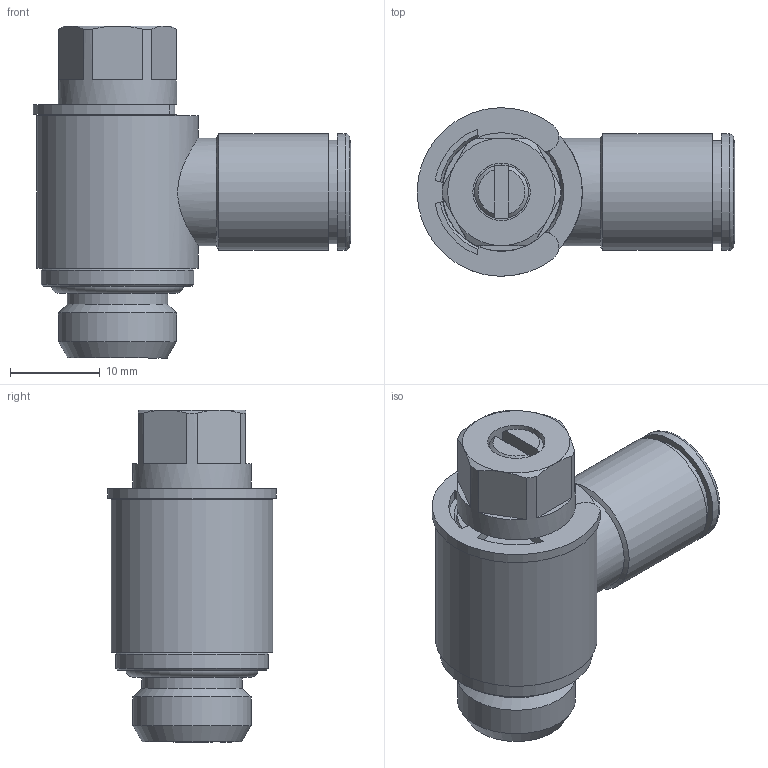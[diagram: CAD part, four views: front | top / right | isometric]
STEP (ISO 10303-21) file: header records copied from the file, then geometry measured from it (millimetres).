
FILE_DESCRIPTION(/* description */ (''),/* implementation_level */ '2;1');
FILE_NAME(/* name */ 'B204608_IPSO_046_8_14_04.02.2016',/* time_stamp */ '2016-02-04T15:12:49+01:00',/* author */ (''),/* organization */ (''),/* preprocessor_version */ 'ST-DEVELOPER v14',/* originating_system */ 'HiCAD 2013 1802.4 Build 509',/* authorisation */ '');
FILE_SCHEMA (('AUTOMOTIVE_DESIGN { 1 0 10303 214 1 1 1 1 }'));
Length unit declared in the file: millimetre
Products named in the file (8): Root; 800053; OR 11.11X1.78; DR8_NEU; 304004-3; R2012085-i1; 304064_Körper (C53C020X); 304002_Spindel
Assembly tree (7 placements, depth 2):
  Root
    800053
    OR 11.11X1.78
    DR8_NEU
    304004-3
    R2012085-i1
    304064_Körper (C53C020X)
    304002_Spindel
Bounding box: 35.4 x 18.79 x 37 mm (x, y, z)
Volume: 7191.7 mm3; surface area: 8652.6 mm2
Topology: 7 solids, 7 shells, 128 faces, 269 edges, 172 vertices
Faces by surface type: plane 53, cylinder 43, cone 28, torus 4
Full cylindrical faces by diameter (mm): 4.7 x1, 5.5 x1, 6 x1, 6.4 x2, 7 x1, 7.4 x1, 7.5 x1, 7.6 x1, 7.7 x1, 8.1 x1, 8.2 x1, 8.3 x1, 8.9 x1, 9 x1, 9.3 x1, 9.4 x3, 10 x1, 10.1 x1, 10.2 x1, 11 x1, 11.2 x1, 11.5 x1, 11.6 x1, 12 x1, 13 x2, 13.157 x1, 13.2 x2, 13.3 x1, 17 x1, 18 x1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
Entity records: 6455 total; most frequent: CARTESIAN_POINT 1825, DIRECTION 610, PRESENTATION_STYLE_ASSIGNMENT 393, COLOUR_RGB 389, DRAUGHTING_PRE_DEFINED_CURVE_FONT 386, CURVE_STYLE 386, OVER_RIDING_STYLED_ITEM 386, ORIENTED_EDGE 386
